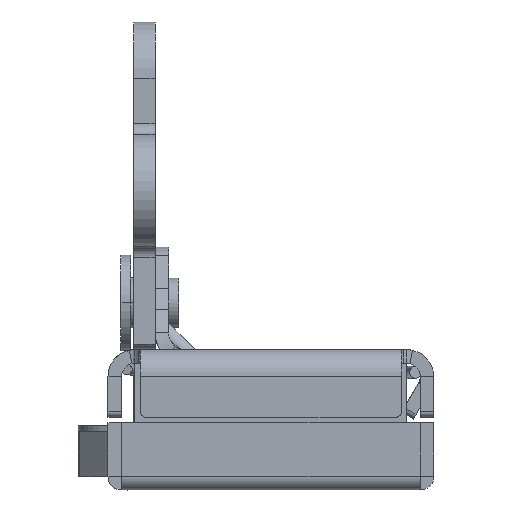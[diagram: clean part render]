
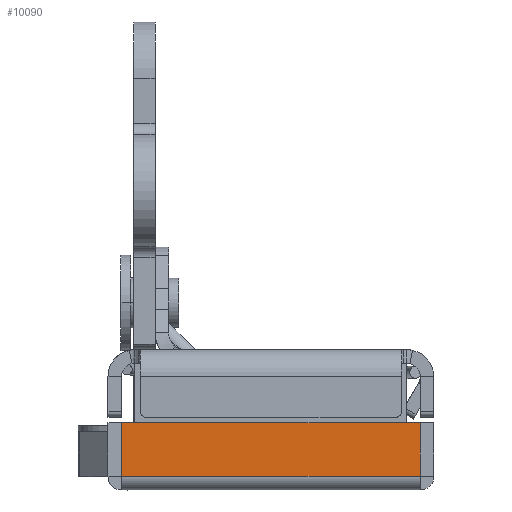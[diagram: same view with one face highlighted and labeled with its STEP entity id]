
A CAD part, left-side view. The second image highlights one B-rep face of the part: STEP entity #10090.
In plain terms, the highlighted planar face has unit normal (-1, 0, 0).
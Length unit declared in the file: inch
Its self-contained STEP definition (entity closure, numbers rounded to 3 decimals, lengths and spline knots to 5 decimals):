
#2011=DIRECTION('',(0.,-1.,0.));
#2012=VECTOR('',#2011,1.66);
#2013=CARTESIAN_POINT('',(-2.239,0.476,0.076));
#2014=LINE('',#2013,#2012);
#2019=DIRECTION('',(0.,0.,-1.));
#2020=VECTOR('',#2019,0.299);
#2021=CARTESIAN_POINT('',(-2.239,0.476,0.375));
#2022=LINE('',#2021,#2020);
#2023=DIRECTION('',(0.,1.,0.));
#2024=VECTOR('',#2023,1.66);
#2025=CARTESIAN_POINT('',(-2.239,-1.184,0.375));
#2026=LINE('',#2025,#2024);
#2027=DIRECTION('',(0.,0.,1.));
#2028=VECTOR('',#2027,0.299);
#2029=CARTESIAN_POINT('',(-2.239,-1.184,0.076));
#2030=LINE('',#2029,#2028);
#6643=CARTESIAN_POINT('',(-2.239,-1.184,0.076));
#6644=VERTEX_POINT('',#6643);
#6653=CARTESIAN_POINT('',(-2.239,0.476,0.375));
#6654=VERTEX_POINT('',#6653);
#6655=CARTESIAN_POINT('',(-2.239,0.476,0.076));
#6656=VERTEX_POINT('',#6655);
#6657=CARTESIAN_POINT('',(-2.239,-1.184,0.375));
#6658=VERTEX_POINT('',#6657);
#10079=CARTESIAN_POINT('',(-2.239,-0.354,0.2255));
#10080=DIRECTION('',(1.,0.,0.));
#10081=DIRECTION('',(0.,0.,1.));
#10082=AXIS2_PLACEMENT_3D('',#10079,#10080,#10081);
#10083=PLANE('',#10082);
#10084=ORIENTED_EDGE('',*,*,#9674,.F.);
#10085=ORIENTED_EDGE('',*,*,#9688,.F.);
#10086=ORIENTED_EDGE('',*,*,#9702,.F.);
#10087=ORIENTED_EDGE('',*,*,#10071,.F.);
#10088=EDGE_LOOP('',(#10084,#10085,#10086,#10087));
#10089=FACE_OUTER_BOUND('',#10088,.F.);
#10090=ADVANCED_FACE('',(#10089),#10083,.F.);
#9674=EDGE_CURVE('',#6654,#6656,#2022,.T.);
#9688=EDGE_CURVE('',#6658,#6654,#2026,.T.);
#9702=EDGE_CURVE('',#6644,#6658,#2030,.T.);
#10071=EDGE_CURVE('',#6656,#6644,#2014,.T.);
